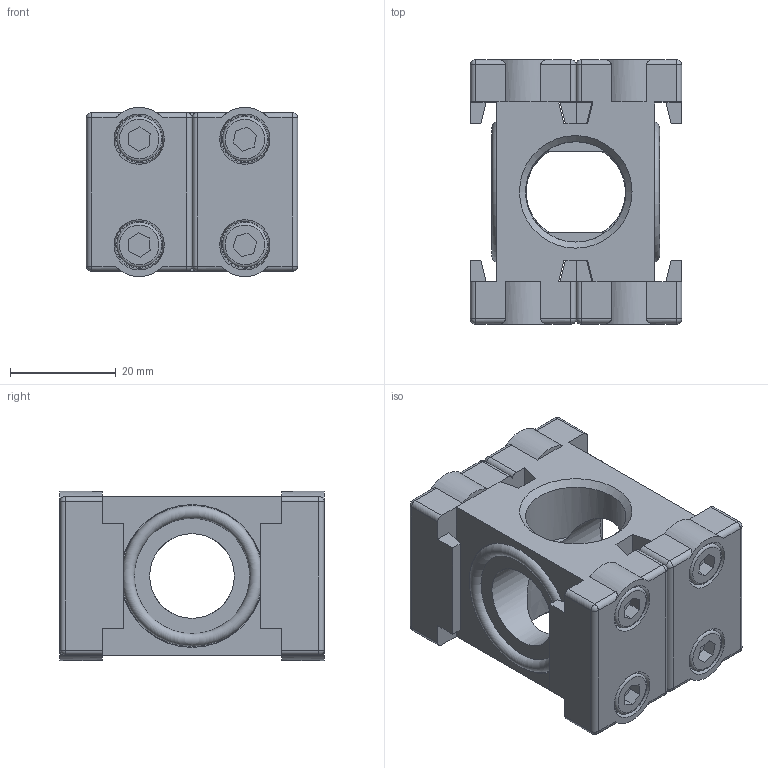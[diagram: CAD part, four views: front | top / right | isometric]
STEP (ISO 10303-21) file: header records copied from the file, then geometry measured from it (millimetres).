
FILE_DESCRIPTION(/* description */ ('Unknown'),/* implementation_level */ '2;1');
FILE_NAME(/* name */ 'T15-MAMG25',/* time_stamp */ '2021-01-07T13:43:25+08:00',/* author */ ('Unknown'),/* organization */ ('Unknown'),/* preprocessor_version */ 'ST-DEVELOPER v16.7',/* originating_system */ 'DEX',/* authorisation */ $);
FILE_SCHEMA (('AUTOMOTIVE_DESIGN {1 0 10303 214 3 1 1}'));
Length unit declared in the file: millimetre
Products named in the file (1): T15-MAMG25
Bounding box: 40 x 50 x 32 mm (x, y, z)
Volume: 38183.6 mm3; surface area: 17224 mm2
Topology: 1 solids, 17 shells, 313 faces, 743 edges, 463 vertices
Faces by surface type: plane 174, cylinder 70, cone 35, torus 18, sphere 16
Full cylindrical faces by diameter (mm): 5 x8, 8.5 x8, 16 x1, 19 x1, 22 x2, 27 x2
Entity records: 10476 total; most frequent: CARTESIAN_POINT 1586, DIRECTION 1383, ORIENTED_EDGE 1220, EDGE_CURVE 610, AXIS2_PLACEMENT_3D 507, FACE_BOUND 442, EDGE_LOOP 434, VERTEX_POINT 430
